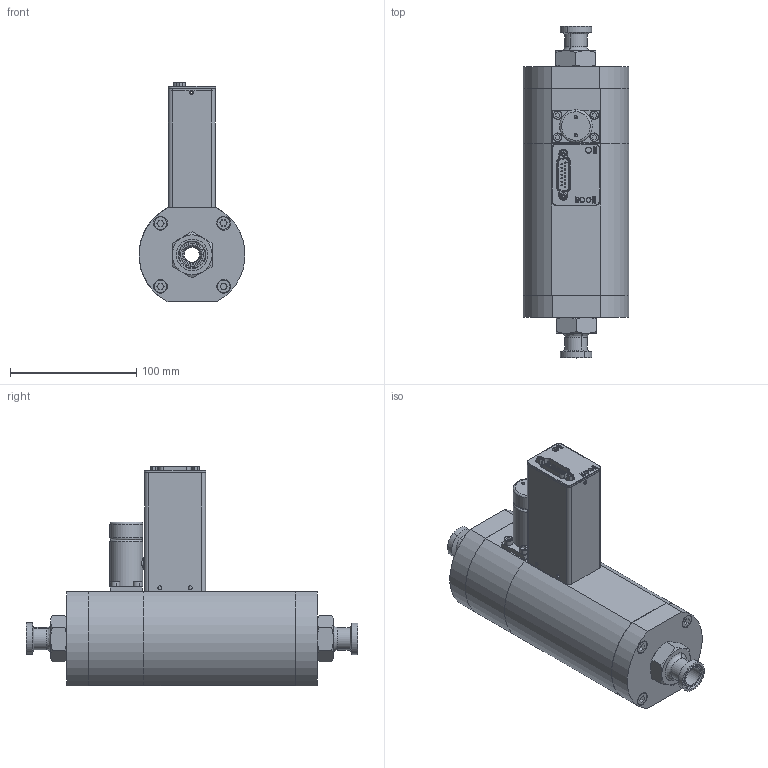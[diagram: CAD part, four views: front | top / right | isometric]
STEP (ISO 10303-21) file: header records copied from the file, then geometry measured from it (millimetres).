
FILE_DESCRIPTION (( 'STEP AP203' ), '1' );
FILE_NAME ('SLA5853-S-5D-3-C-REVB.STEP', '2018-12-12T17:05:54', ( '' ), ( '' ), 'SwSTEP 2.0', 'SolidWorks 2017', '' );
FILE_SCHEMA (( 'CONFIG_CONTROL_DESIGN' ));
Length unit declared in the file: inch
Products named in the file (18): 613z454_c; 715z169_g_3; 092b166_h_BODY_2; 219Z868; 219z858_a_1; 854z114_f_3; 092b167_j_3; 185z272_j_2; 314z083_A-sanitary fitting; 758z016_e_3; 758z014_e_3; 751c322_a_3; 124y173_a_1; SLA5853-S-5D-3-C-REVB; 7002848_002_1; 573z275_J_3; 219z863_a_WITH TEXT_1
Assembly tree (30 placements, depth 3):
  SLA5853-S-5D-3-C-REVB
    185z272_j_2
    573z275_J_3
    715z169_g_3
    751c322_a_3  x4
    758z016_e_3  x4
    758z014_e_3  x4
    092b166_h_BODY_2
      092b166_h_BODY_2
      854z114_f_3  x2
    092b167_j_3
    219Z868
    124y173_a_1
    7002848_002_1  x2
    219z863_a_WITH TEXT_1
      219z858_a_1
    314z083_A-sanitary fitting  x2
    613z454_c  x2
Bounding box: 83.91 x 263.32 x 174.47 mm (x, y, z)
Volume: 790924.2 mm3; surface area: 227370.5 mm2
Topology: 36 solids, 36 shells, 2327 faces, 5905 edges, 3631 vertices
Faces by surface type: cylinder 794, plane 675, bspline 494, cone 364
Entity records: 73489 total; most frequent: CARTESIAN_POINT 23598, ORIENTED_EDGE 10136, DIRECTION 10113, EDGE_CURVE 5068, AXIS2_PLACEMENT_3D 3973, VERTEX_POINT 3139, CIRCLE 2440, EDGE_LOOP 2235
